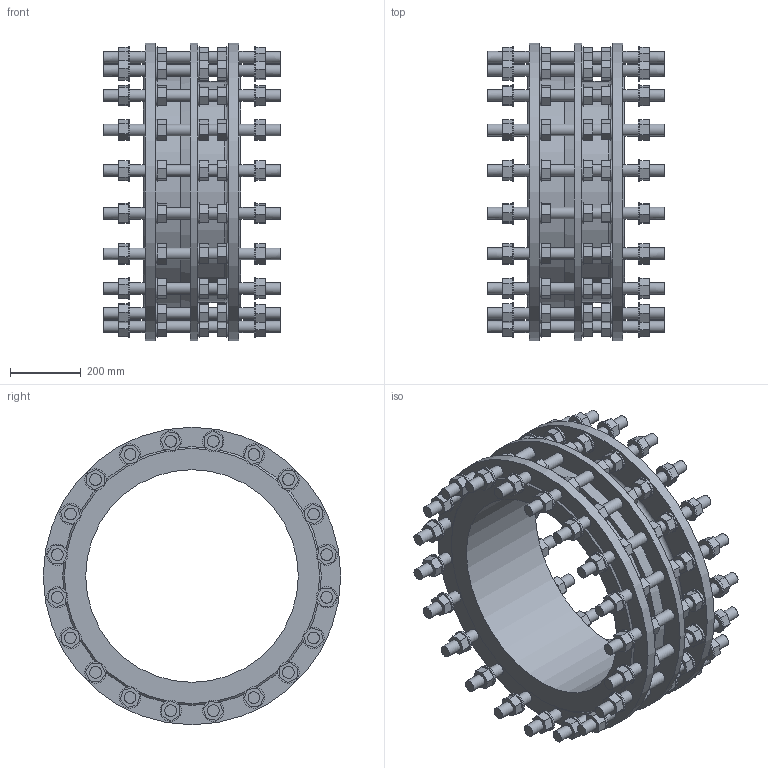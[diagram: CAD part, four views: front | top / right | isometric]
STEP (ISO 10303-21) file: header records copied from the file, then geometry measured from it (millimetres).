
FILE_DESCRIPTION (( 'STEP AP203' ), '1' );
FILE_NAME ('O_265_910_DN600_1XXXXX00_L=275_REV01.step', '2024-10-11T10:43:17', ( '' ), ( '' ), 'SwSTEP 2.0', 'SolidWorks 2022', '' );
FILE_SCHEMA (( 'CONFIG_CONTROL_DESIGN' ));
Length unit declared in the file: millimetre
Products named in the file (1): O_265_910_DN600_1XXXXX00_L=275_REV01
Bounding box: 500 x 840 x 840 mm (x, y, z)
Volume: 43693681.1 mm3; surface area: 3736229.7 mm2
Topology: 1 solids, 1 shells, 1160 faces, 2750 edges, 1883 vertices
Faces by surface type: plane 928, cylinder 228, cone 3, torus 1
Full cylindrical faces by diameter (mm): 33 x120, 60 x100, 600 x1, 624 x1, 664 x1, 840 x3
Entity records: 31090 total; most frequent: CARTESIAN_POINT 5264, DIRECTION 5155, ORIENTED_EDGE 4740, EDGE_CURVE 2370, LINE 1907, VECTOR 1907, EDGE_LOOP 1763, VERTEX_POINT 1733
